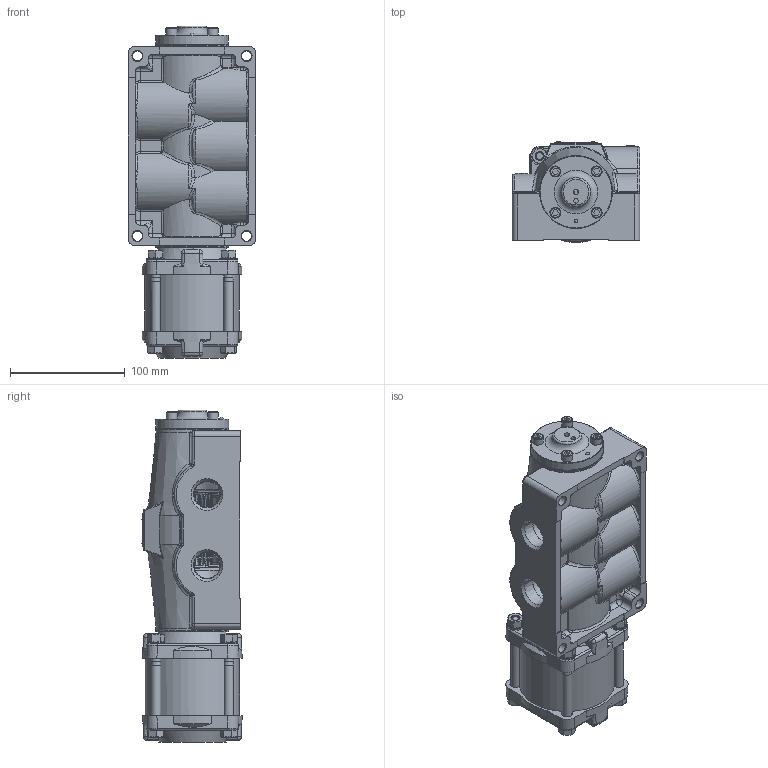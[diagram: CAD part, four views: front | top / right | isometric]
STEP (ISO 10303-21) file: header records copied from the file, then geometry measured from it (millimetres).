
FILE_DESCRIPTION(/* description */ (''),/* implementation_level */ '2;1');
FILE_NAME(/* name */ 'D:\Website Files\stp\Valves\Piston\PY\PY6D.stp',/* time_stamp */ '2015-09-23T09:36:17-04:00',/* author */ ('RMcKenna'),/* organization */ (''),/* preprocessor_version */ 'ST-DEVELOPER v15.6',/* originating_system */ 'Autodesk Inventor 2015',/* authorisation */ '');
FILE_SCHEMA (('AUTOMOTIVE_DESIGN { 1 0 10303 214 3 1 1 }'));
Products named in the file (1): Part299
Bounding box: 111.12 x 87.73 x 289.61 mm (x, y, z)
Volume: 1193125.8 mm3; surface area: 264371.1 mm2
Topology: 4 solids, 17 shells, 2465 faces, 5964 edges, 3603 vertices
Faces by surface type: plane 834, cylinder 607, cone 411, bspline 336, torus 184, sphere 93
Full cylindrical faces by diameter (mm): 2.07 x2, 2.261 x2, 2.778 x2, 3.962 x2, 3.969 x1, 4.75 x2, 4.978 x10, 6.35 x4, 6.401 x4, 7.137 x9, 7.144 x8, 7.938 x4, 7.95 x1, 8.128 x4, 8.23 x4, 8.712 x4, 9.5 x3, 9.525 x4, 10.719 x1, 11.887 x1, 12.7 x4, 15.081 x1, 15.875 x1, 16.002 x2, 17.323 x1, 18.644 x1, 19.253 x3, 20.218 x1, 20.295 x1, 22.631 x5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
Entity records: 94843 total; most frequent: CARTESIAN_POINT 39358, ORIENTED_EDGE 11098, DIRECTION 10639, EDGE_CURVE 5549, AXIS2_PLACEMENT_3D 4320, VERTEX_POINT 3491, EDGE_LOOP 2898, FACE_OUTER_BOUND 2465
